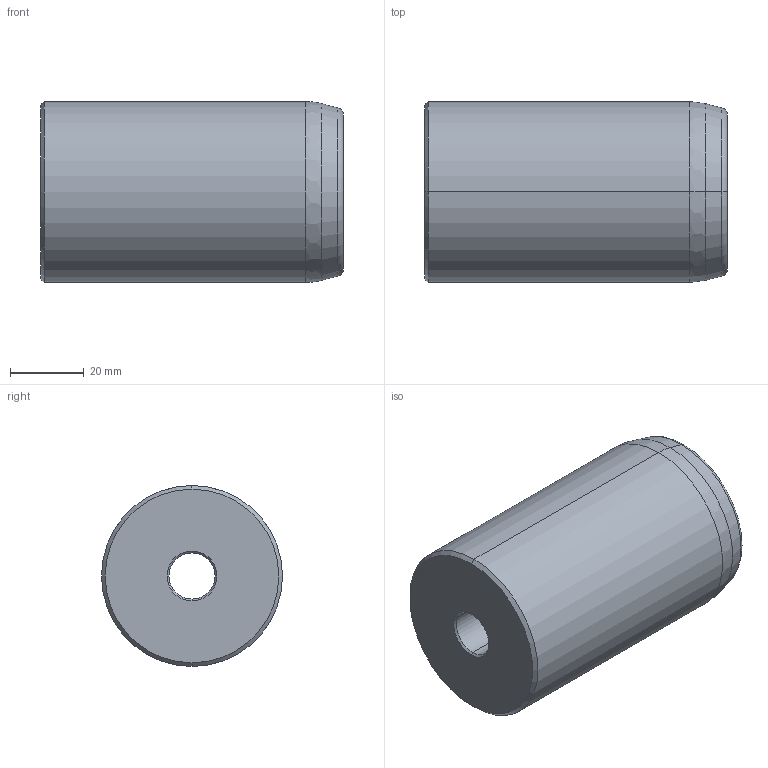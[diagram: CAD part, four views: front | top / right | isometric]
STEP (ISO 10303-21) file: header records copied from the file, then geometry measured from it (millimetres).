
FILE_DESCRIPTION (( 'STEP AP203' ), '1' );
FILE_NAME ('庋-1250-49-82.STEP', '2018-10-03T09:53:37', ( '' ), ( '' ), 'SwSTEP 2.0', 'SolidWorks 2017', '' );
FILE_SCHEMA (( 'CONFIG_CONTROL_DESIGN' ));
Length unit declared in the file: millimetre
Products named in the file (1): 庋-1250-49-82
Bounding box: 82 x 49 x 49 mm (x, y, z)
Volume: 87547 mm3; surface area: 23369.9 mm2
Topology: 1 solids, 1 shells, 23 faces, 46 edges, 26 vertices
Faces by surface type: cone 10, cylinder 6, torus 4, plane 3
Entity records: 679 total; most frequent: DIRECTION 124, CARTESIAN_POINT 96, ORIENTED_EDGE 92, AXIS2_PLACEMENT_3D 54, EDGE_CURVE 46, CIRCLE 30, EDGE_LOOP 26, VERTEX_POINT 26
